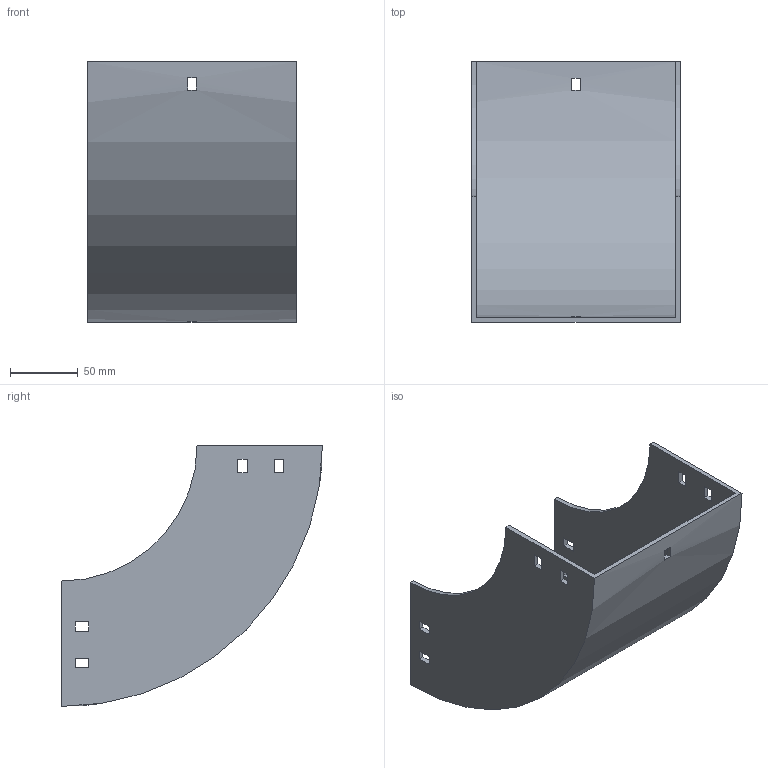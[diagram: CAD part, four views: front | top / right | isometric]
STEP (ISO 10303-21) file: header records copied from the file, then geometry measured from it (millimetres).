
FILE_DESCRIPTION (( 'STEP AP214' ), '1' );
FILE_NAME ('30B1I150.step', '2025-02-21T09:51:17', ( '' ), ( '' ), 'SwSTEP 2.0', 'SolidWorks 2023', '' );
FILE_SCHEMA (( 'AUTOMOTIVE_DESIGN' ));
Length unit declared in the file: millimetre
Products named in the file (1): 30B1I150
Bounding box: 154 x 192.5 x 192.5 mm (x, y, z)
Volume: 300537.7 mm3; surface area: 176348.5 mm2
Topology: 1 solids, 1 shells, 50 faces, 144 edges, 96 vertices
Faces by surface type: plane 46, cylinder 4
Entity records: 1687 total; most frequent: CARTESIAN_POINT 291, ORIENTED_EDGE 288, DIRECTION 262, EDGE_CURVE 144, VECTOR 128, LINE 128, VERTEX_POINT 96, EDGE_LOOP 70
